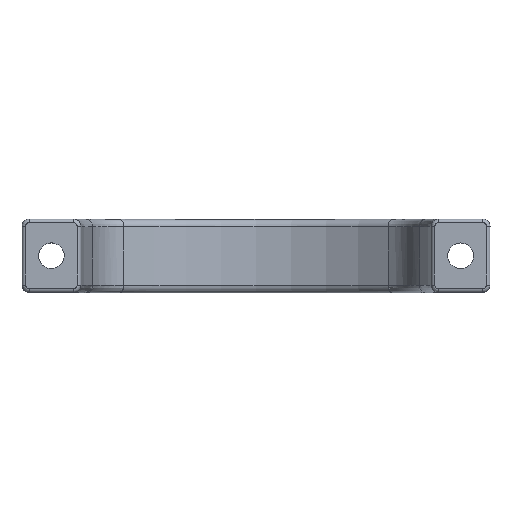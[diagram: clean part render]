
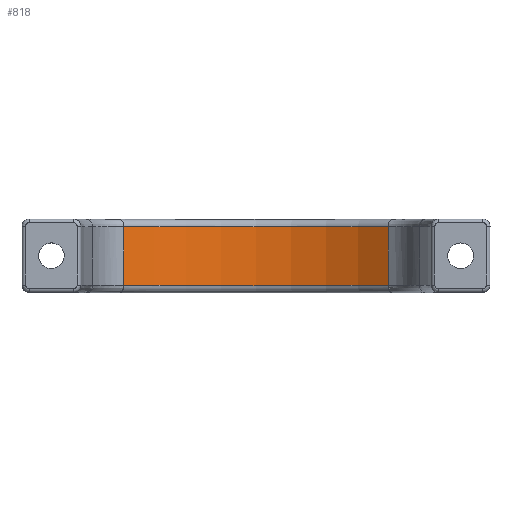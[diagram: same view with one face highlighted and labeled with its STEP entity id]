
A CAD part, top view. The second image highlights one B-rep face of the part: STEP entity #818.
In plain terms, the highlighted cylindrical face has radius 30.397 mm (diameter 60.794 mm), a partial arc.
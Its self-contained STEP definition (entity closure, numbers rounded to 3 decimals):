
#14 = EDGE_CURVE ( 'NONE', #3954, #489, #1391, .T. ) ;
#465 = VERTEX_POINT ( 'NONE', #684 ) ;
#489 = VERTEX_POINT ( 'NONE', #3792 ) ;
#544 = CIRCLE ( 'NONE', #1313, 30.397 ) ;
#636 = AXIS2_PLACEMENT_3D ( 'NONE', #1385, #1078, #3626 ) ;
#684 = CARTESIAN_POINT ( 'NONE',  ( -17.992, 122., -24.5 ) ) ;
#731 = AXIS2_PLACEMENT_3D ( 'NONE', #2820, #1264, #1304 ) ;
#773 = CARTESIAN_POINT ( 'NONE',  ( -17.992, 113., -24.5 ) ) ;
#803 = CARTESIAN_POINT ( 'NONE',  ( 17.992, 113., -24.5 ) ) ;
#818 = ADVANCED_FACE ( 'NONE', ( #2360 ), #2022, .F. ) ;
#1060 = ORIENTED_EDGE ( 'NONE', *, *, #3817, .F. ) ;
#1078 = DIRECTION ( 'NONE',  ( 0., 1., 0. ) ) ;
#1264 = DIRECTION ( 'NONE',  ( 0., 1., 0. ) ) ;
#1304 = DIRECTION ( 'NONE',  ( -1., 0., 0. ) ) ;
#1313 = AXIS2_PLACEMENT_3D ( 'NONE', #4032, #2179, #3416 ) ;
#1342 = DIRECTION ( 'NONE',  ( 0., 1., 0. ) ) ;
#1359 = ORIENTED_EDGE ( 'NONE', *, *, #3734, .T. ) ;
#1385 = CARTESIAN_POINT ( 'NONE',  ( 0., 113., 0. ) ) ;
#1391 = LINE ( 'NONE', #803, #1592 ) ;
#1427 = ORIENTED_EDGE ( 'NONE', *, *, #14, .T. ) ;
#1474 = CARTESIAN_POINT ( 'NONE',  ( 17.992, 114., -24.5 ) ) ;
#1592 = VECTOR ( 'NONE', #1342, 1000. ) ;
#1623 = EDGE_LOOP ( 'NONE', ( #1427, #2310, #1060, #1359 ) ) ;
#1652 = VECTOR ( 'NONE', #2018, 1000. ) ;
#2018 = DIRECTION ( 'NONE',  ( 0., 1., 0. ) ) ;
#2022 = CYLINDRICAL_SURFACE ( 'NONE', #636, 30.397 ) ;
#2179 = DIRECTION ( 'NONE',  ( 0., -1., 0. ) ) ;
#2310 = ORIENTED_EDGE ( 'NONE', *, *, #3090, .T. ) ;
#2314 = LINE ( 'NONE', #773, #1652 ) ;
#2360 = FACE_OUTER_BOUND ( 'NONE', #1623, .T. ) ;
#2820 = CARTESIAN_POINT ( 'NONE',  ( 0., 122., 0. ) ) ;
#3090 = EDGE_CURVE ( 'NONE', #489, #465, #3804, .T. ) ;
#3263 = VERTEX_POINT ( 'NONE', #3938 ) ;
#3416 = DIRECTION ( 'NONE',  ( -1., 0., 0. ) ) ;
#3626 = DIRECTION ( 'NONE',  ( -1., 0., 0. ) ) ;
#3734 = EDGE_CURVE ( 'NONE', #3263, #3954, #544, .T. ) ;
#3792 = CARTESIAN_POINT ( 'NONE',  ( 17.992, 122., -24.5 ) ) ;
#3804 = CIRCLE ( 'NONE', #731, 30.397 ) ;
#3817 = EDGE_CURVE ( 'NONE', #3263, #465, #2314, .T. ) ;
#3938 = CARTESIAN_POINT ( 'NONE',  ( -17.992, 114., -24.5 ) ) ;
#3954 = VERTEX_POINT ( 'NONE', #1474 ) ;
#4032 = CARTESIAN_POINT ( 'NONE',  ( 0., 114., 0. ) ) ;
